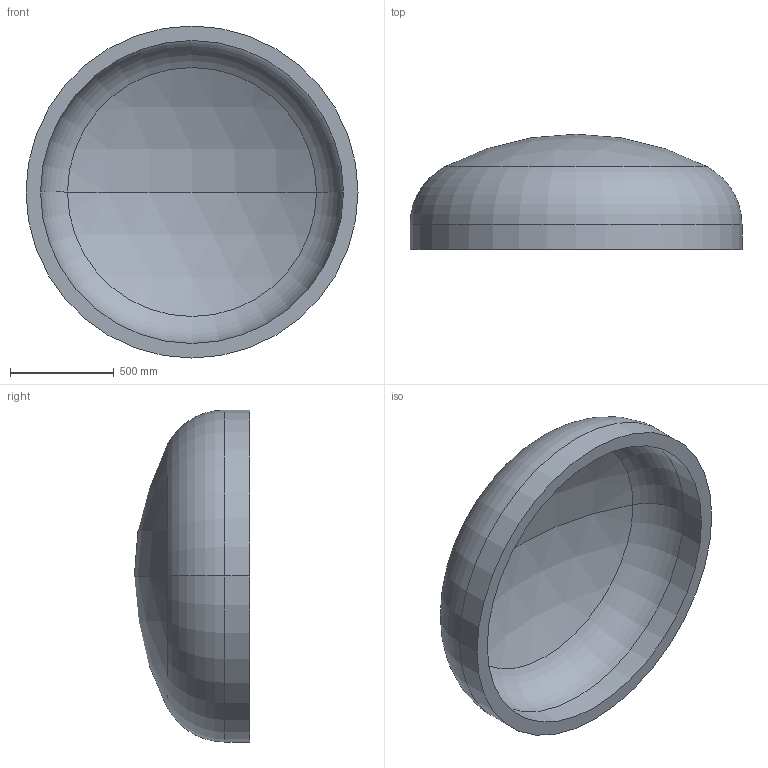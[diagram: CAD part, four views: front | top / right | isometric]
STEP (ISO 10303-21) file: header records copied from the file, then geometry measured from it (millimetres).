
FILE_DESCRIPTION (( 'STEP AP203' ), '1' );
FILE_NAME ('DIN 28013 Korbbogenform_-_Boden DIN 28013 - 1600 x 120 - I - s=70.step', '2016-07-01T11:23:41', ( '' ), ( '' ), 'SwSTEP 2.0', 'SolidWorks 2013', '' );
FILE_SCHEMA (( 'CONFIG_CONTROL_DESIGN' ));
Length unit declared in the file: millimetre
Products named in the file (1): DIN 28013 Korbbogenform_-_Boden DIN 28013 - 1600 x 120 - I - s=70
Bounding box: 1600 x 555.67 x 1600 mm (x, y, z)
Volume: 224380155.2 mm3; surface area: 6757587 mm2
Topology: 1 solids, 1 shells, 13 faces, 24 edges, 14 vertices
Faces by surface type: torus 4, cylinder 4, sphere 4, plane 1
Entity records: 407 total; most frequent: DIRECTION 72, CARTESIAN_POINT 52, ORIENTED_EDGE 48, AXIS2_PLACEMENT_3D 34, EDGE_CURVE 24, CIRCLE 20, VERTEX_POINT 14, EDGE_LOOP 14
